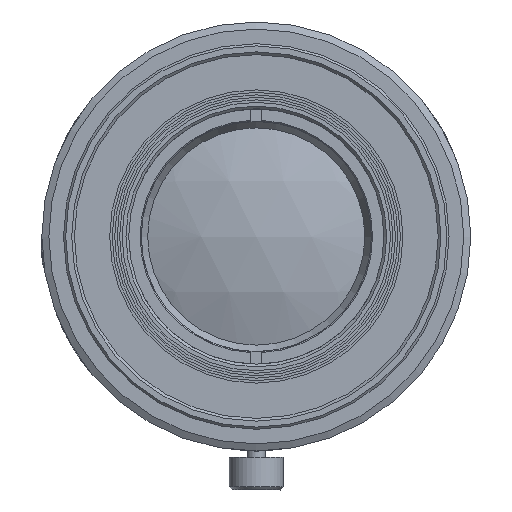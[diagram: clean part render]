
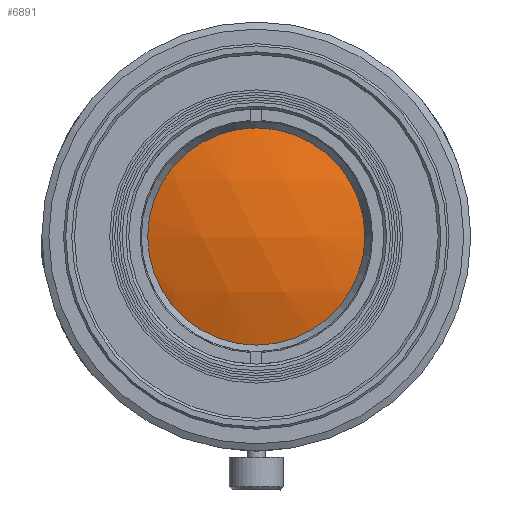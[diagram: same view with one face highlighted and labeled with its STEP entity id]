
A CAD part, front view. The second image highlights one B-rep face of the part: STEP entity #6891.
In plain terms, the highlighted spherical face has radius 28.969 mm.
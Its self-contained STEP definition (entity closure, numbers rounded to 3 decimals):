
#27=SPHERICAL_SURFACE('',#7381,28.969);
#1190=CIRCLE('',#7382,10.);
#2214=ORIENTED_EDGE('',*,*,#2992,.T.);
#2992=EDGE_CURVE('',#3446,#3446,#1190,.T.);
#3446=VERTEX_POINT('',#10256);
#3839=EDGE_LOOP('',(#2214));
#4296=FACE_BOUND('',#3839,.T.);
#6891=ADVANCED_FACE('',(#4296),#27,.T.);
#7381=AXIS2_PLACEMENT_3D('',#10254,#8665,#8666);
#7382=AXIS2_PLACEMENT_3D('',#10255,#8667,#8668);
#8665=DIRECTION('',(0.,0.,1.));
#8666=DIRECTION('',(-0.349,-0.937,0.));
#8667=DIRECTION('',(0.,-1.,0.));
#8668=DIRECTION('',(0.,0.,-1.));
#10254=CARTESIAN_POINT('',(0.,-26.507,0.));
#10255=CARTESIAN_POINT('',(0.,-53.696,0.));
#10256=CARTESIAN_POINT('',(0.,-53.696,-10.));
